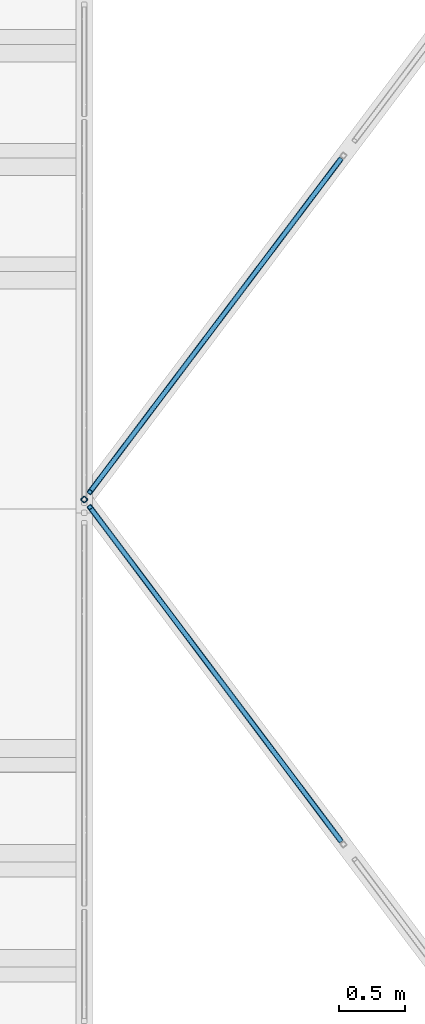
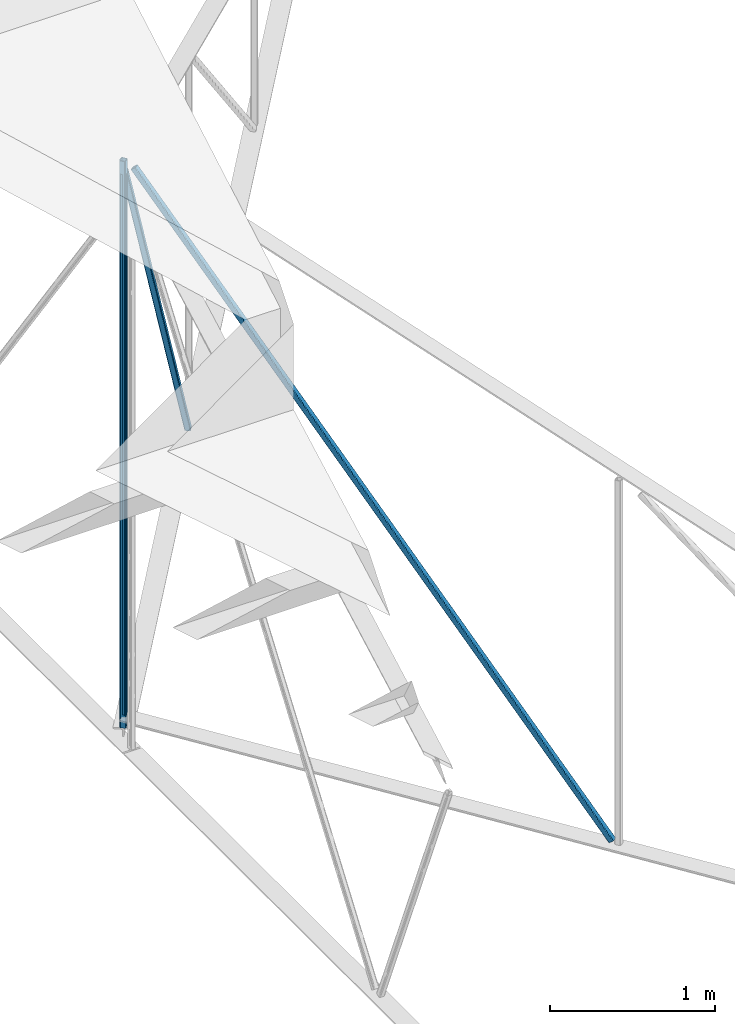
# One storey, part 10 of 15: 4 members, 2 elements without a shape of their own.
"""IFC4 building model written with IfcOpenShell, lengths in metres."""

from ifc_helpers import new_model, entity, si_unit, converted_unit, derived_unit, direction, frame, origin, place, context, subcontext, project, spatial, line, arc, indexed_curve, outline, extrude, source, transform, mapped, material, type_object, type_shapes, element, aggregate, save


model = new_model("IFC4")

# Units and contexts
model_context = context("Model", 3, precision=1e-05, world=origin(), true_north=direction((6.123031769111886e-17, 1.0)))
body_context = subcontext(model_context, "Body", "Model", "MODEL_VIEW")
ifc_project = project(units=[si_unit("LENGTHUNIT", "METRE"), si_unit("AREAUNIT", "SQUARE_METRE"), si_unit("VOLUMEUNIT", "CUBIC_METRE"), converted_unit("PLANEANGLEUNIT", "DEGREE", entity("IfcRatioMeasure", 0.017453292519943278), si_unit("PLANEANGLEUNIT", "RADIAN"), dimensions=[0, 0, 0, 0, 0, 0, 0]), si_unit("MASSUNIT", "GRAM", prefix="KILO"), derived_unit("MASSDENSITYUNIT", [(si_unit("MASSUNIT", "GRAM", prefix="KILO"), 1), (si_unit("LENGTHUNIT", "METRE"), -3)]), derived_unit("MOMENTOFINERTIAUNIT", [(si_unit("LENGTHUNIT", "METRE"), 4)]), si_unit("TIMEUNIT", "SECOND"), si_unit("FREQUENCYUNIT", "HERTZ"), si_unit("THERMODYNAMICTEMPERATUREUNIT", "DEGREE_CELSIUS"), derived_unit("THERMALTRANSMITTANCEUNIT", [(si_unit("MASSUNIT", "GRAM", prefix="KILO"), 1), (si_unit("THERMODYNAMICTEMPERATUREUNIT", "KELVIN"), -1), (si_unit("TIMEUNIT", "SECOND"), -3)]), derived_unit("VOLUMETRICFLOWRATEUNIT", [(si_unit("LENGTHUNIT", "METRE"), 3), (si_unit("TIMEUNIT", "SECOND"), -1)]), derived_unit("MASSFLOWRATEUNIT", [(si_unit("MASSUNIT", "GRAM", prefix="KILO"), 1), (si_unit("TIMEUNIT", "SECOND"), -1)]), derived_unit("ROTATIONALFREQUENCYUNIT", [(si_unit("TIMEUNIT", "SECOND"), -1)]), si_unit("ELECTRICCURRENTUNIT", "AMPERE"), si_unit("ELECTRICVOLTAGEUNIT", "VOLT"), si_unit("POWERUNIT", "WATT"), si_unit("FORCEUNIT", "NEWTON", prefix="KILO"), si_unit("ILLUMINANCEUNIT", "LUX"), si_unit("LUMINOUSFLUXUNIT", "LUMEN"), si_unit("LUMINOUSINTENSITYUNIT", "CANDELA"), derived_unit("USERDEFINED", [(si_unit("MASSUNIT", "GRAM", prefix="KILO"), -1), (si_unit("LENGTHUNIT", "METRE"), -2), (si_unit("TIMEUNIT", "SECOND"), 3), (si_unit("LUMINOUSFLUXUNIT", "LUMEN"), 1)]), derived_unit("SOUNDPOWERUNIT", [(si_unit("MASSUNIT", "GRAM", prefix="KILO"), 1), (si_unit("LENGTHUNIT", "METRE"), 2), (si_unit("TIMEUNIT", "SECOND"), -3)]), derived_unit("SOUNDPRESSUREUNIT", [(si_unit("MASSUNIT", "GRAM", prefix="KILO"), 1), (si_unit("LENGTHUNIT", "METRE"), -1), (si_unit("TIMEUNIT", "SECOND"), -2)]), derived_unit("LINEARVELOCITYUNIT", [(si_unit("LENGTHUNIT", "METRE"), 1), (si_unit("TIMEUNIT", "SECOND"), -1)]), si_unit("PRESSUREUNIT", "PASCAL"), derived_unit("USERDEFINED", [(si_unit("LENGTHUNIT", "METRE"), -2), (si_unit("MASSUNIT", "GRAM", prefix="KILO"), 1), (si_unit("TIMEUNIT", "SECOND"), -2)]), derived_unit("LINEARFORCEUNIT", [(si_unit("MASSUNIT", "GRAM", prefix="KILO"), 1), (si_unit("LENGTHUNIT", "METRE"), 1), (si_unit("TIMEUNIT", "SECOND"), -2), (si_unit("LENGTHUNIT", "METRE"), -1)]), derived_unit("PLANARFORCEUNIT", [(si_unit("MASSUNIT", "GRAM", prefix="KILO"), 1), (si_unit("LENGTHUNIT", "METRE"), 1), (si_unit("TIMEUNIT", "SECOND"), -2), (si_unit("LENGTHUNIT", "METRE"), -2)])], contexts=[model_context])

# Site, building, storey
site_placement = place(None, origin())
site = spatial("IfcSite", under=ifc_project, at=site_placement, Name="Superficie", CompositionType="ELEMENT")
building_placement = place(site_placement, origin())
building = spatial("IfcBuilding", under=site, at=building_placement, CompositionType="ELEMENT")
storey_placement = place(building_placement, frame((0.0, 0.0, 7.25)))
storey = spatial("IfcBuildingStorey", under=building, at=storey_placement, Name="Nivel 2", CompositionType="ELEMENT", Elevation=7.25)

# Assembly, members
assembly_1_placement = place(storey_placement, origin())
assembly_1 = element("IfcElementAssembly", 1, at=assembly_1_placement, inside=storey, Name="Cercha esquina:Cercha esquina", ObjectType="Cercha esquina:Cercha esquina", AssemblyPlace="NOTDEFINED", PredefinedType="TRUSS")
ifc_material = material(Name="Metal - Acero - 345 MPa", Category="Metal")
member_type_1 = type_object("IfcMemberType", Name="HSS-Sección estructural hueca:HSS41.3X41.3X4.8", PredefinedType="BRACE", material=ifc_material)
shared_shape_1 = source(origin(), body_context, "Body", "SweptSolid", [
    extrude(outline(indexed_curve([(-0.020650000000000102, -0.011809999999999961), (-0.01806082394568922, -0.018060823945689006), (-0.011810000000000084, -0.020649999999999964), (0.011810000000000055, -0.020649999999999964), (0.01806082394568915, -0.01806082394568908), (0.020650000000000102, -0.011809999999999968), (0.020650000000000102, 0.011809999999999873), (0.018060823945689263, 0.018060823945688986), (0.01181000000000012, 0.020649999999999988), (-0.011810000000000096, 0.020649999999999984), (-0.018060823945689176, 0.018060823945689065), (-0.020650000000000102, 0.011810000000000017)], segments=[arc(1, 2, 3), line(3, 4), arc(4, 5, 6), line(6, 7), arc(7, 8, 9), line(9, 10), arc(10, 11, 12), line(12, 1)], self_intersect=False), holes=[indexed_curve([(0.01180999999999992, -0.016230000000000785), (-0.011809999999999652, -0.016230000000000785), (-0.014935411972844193, -0.014935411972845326), (-0.016229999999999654, -0.011810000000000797), (-0.016229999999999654, 0.011809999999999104), (-0.014935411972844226, 0.01493541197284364), (-0.011809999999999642, 0.016229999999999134), (0.011809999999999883, 0.016229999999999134), (0.014935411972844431, 0.014935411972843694), (0.01622999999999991, 0.011809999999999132), (0.01622999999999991, -0.011810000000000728), (0.014935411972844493, -0.014935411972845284)], segments=[line(1, 2), arc(2, 3, 4), line(4, 5), arc(5, 6, 7), line(7, 8), arc(8, 9, 10), line(10, 11), arc(11, 12, 1)], self_intersect=False)]), frame((-2.0560000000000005, 0.0, 0.0), z_axis=(1.0, 0.0, 0.0), x_axis=(0.0, -1.0, 0.0)), (0.0, 0.0, 1.0), 4.1000000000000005),
])
type_shapes(member_type_1, [shared_shape_1])
member_1_placement = place(assembly_1_placement, frame((14.597348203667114, -1.8582267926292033, 2.406031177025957), z_axis=(-0.6008480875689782, 0.7993632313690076, 0.0), x_axis=(0.0, 0.0, 1.0)))
member_1 = element("IfcMember", 2, at=member_1_placement, type_object=member_type_1, material=ifc_material, Name="HSS-Sección estructural hueca:HSS41.3X41.3X4.8", ObjectType="HSS-Sección estructural hueca:HSS41.3X41.3X4.8", PredefinedType="BRACE", context=body_context, shape_type="MappedRepresentation", body=[
    mapped(shared_shape_1, transform((0.0, 0.0, 0.0), scale=1.0)),
])
member_type_2 = type_object("IfcMemberType", Name="HSS-Sección estructural hueca:HSS41.3X41.3X4.8", PredefinedType="BRACE", material=ifc_material)
shared_shape_2 = source(origin(), body_context, "Body", "SweptSolid", [
    extrude(outline(indexed_curve([(-0.020650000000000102, -0.011809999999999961), (-0.01806082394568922, -0.018060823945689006), (-0.011810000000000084, -0.020649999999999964), (0.011810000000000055, -0.020649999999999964), (0.01806082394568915, -0.01806082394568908), (0.020650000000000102, -0.011809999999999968), (0.020650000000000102, 0.011809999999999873), (0.018060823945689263, 0.018060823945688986), (0.01181000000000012, 0.020649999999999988), (-0.011810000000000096, 0.020649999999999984), (-0.018060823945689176, 0.018060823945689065), (-0.020650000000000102, 0.011810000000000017)], segments=[arc(1, 2, 3), line(3, 4), arc(4, 5, 6), line(6, 7), arc(7, 8, 9), line(9, 10), arc(10, 11, 12), line(12, 1)], self_intersect=False), holes=[indexed_curve([(0.01180999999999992, -0.016230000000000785), (-0.011809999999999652, -0.016230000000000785), (-0.014935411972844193, -0.014935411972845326), (-0.016229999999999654, -0.011810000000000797), (-0.016229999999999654, 0.011809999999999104), (-0.014935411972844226, 0.01493541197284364), (-0.011809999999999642, 0.016229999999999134), (0.011809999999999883, 0.016229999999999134), (0.014935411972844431, 0.014935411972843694), (0.01622999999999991, 0.011809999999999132), (0.01622999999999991, -0.011810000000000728), (0.014935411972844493, -0.014935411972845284)], segments=[line(1, 2), arc(2, 3, 4), line(4, 5), arc(5, 6, 7), line(7, 8), arc(8, 9, 10), line(10, 11), arc(11, 12, 1)], self_intersect=False)]), frame((-2.618500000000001, 0.0, 0.0), z_axis=(1.0, 0.0, 0.0), x_axis=(0.0, -1.0, 0.0)), (0.0, 0.0, 1.0), 5.189000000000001),
])
type_shapes(member_type_2, [shared_shape_2])
member_2_placement = place(assembly_1_placement, frame((15.57892333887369, -3.1641060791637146, 2.371544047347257), z_axis=(-0.4772115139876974, 0.6348781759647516, -0.6076173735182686), x_axis=(-0.36508573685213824, 0.4857069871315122, 0.7942298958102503)))
member_2 = element("IfcMember", 3, at=member_2_placement, type_object=member_type_2, material=ifc_material, Name="HSS-Sección estructural hueca:HSS41.3X41.3X4.8", ObjectType="HSS-Sección estructural hueca:HSS41.3X41.3X4.8", PredefinedType="BRACE", context=body_context, shape_type="MappedRepresentation", body=[
    mapped(shared_shape_2, transform((0.0, 0.0, 0.0), scale=1.0)),
])
aggregate(assembly_1, [member_1, member_2])

assembly_2_placement = place(storey_placement, origin())
assembly_2 = element("IfcElementAssembly", 4, at=assembly_2_placement, inside=storey, Name="Cercha esquina:Cercha esquina", ObjectType="Cercha esquina:Cercha esquina", AssemblyPlace="NOTDEFINED", PredefinedType="TRUSS")
member_type_3 = type_object("IfcMemberType", Name="HSS-Sección estructural hueca:HSS41.3X41.3X4.8", PredefinedType="BRACE", material=ifc_material)
shared_shape_3 = source(origin(), body_context, "Body", "SweptSolid", [
    extrude(outline(indexed_curve([(-0.011809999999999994, -0.020650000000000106), (0.011809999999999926, -0.020650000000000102), (0.01806082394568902, -0.01806082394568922), (0.020649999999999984, -0.011810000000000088), (0.020649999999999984, 0.011810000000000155), (0.018060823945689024, 0.018060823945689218), (0.011809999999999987, 0.0206500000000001), (-0.011809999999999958, 0.0206500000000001), (-0.01806082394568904, 0.018060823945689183), (-0.020649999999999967, 0.011810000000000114), (-0.020649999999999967, -0.01181000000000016), (-0.018060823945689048, -0.018060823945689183)], segments=[line(1, 2), arc(2, 3, 4), line(4, 5), arc(5, 6, 7), line(7, 8), arc(8, 9, 10), line(10, 11), arc(11, 12, 1)], self_intersect=False), holes=[indexed_curve([(-0.01623000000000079, 0.01180999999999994), (-0.014935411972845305, 0.014935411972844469), (-0.011810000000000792, 0.016229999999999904), (0.01180999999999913, 0.016229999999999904), (0.01493541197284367, 0.014935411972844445), (0.01622999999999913, 0.01180999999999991), (0.01622999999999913, -0.011809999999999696), (0.014935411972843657, -0.014935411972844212), (0.01180999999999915, -0.01622999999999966), (-0.011810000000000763, -0.01622999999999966), (-0.014935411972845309, -0.01493541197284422), (-0.01623000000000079, -0.011809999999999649)], segments=[arc(1, 2, 3), line(3, 4), arc(4, 5, 6), line(6, 7), arc(7, 8, 9), line(9, 10), arc(10, 11, 12), line(12, 1)], self_intersect=False)]), frame((-2.0560000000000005, 0.0, 0.0), z_axis=(1.0, 0.0, 0.0), x_axis=(0.0, 0.0, -1.0)), (0.0, 0.0, 1.0), 4.1000000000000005),
])
type_shapes(member_type_3, [shared_shape_3])
member_3_placement = place(assembly_2_placement, frame((14.597348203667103, -1.8582267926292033, 2.3078143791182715), z_axis=(-0.6018150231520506, -0.798635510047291, 0.0), x_axis=(0.0, 0.0, 1.0)))
member_3 = element("IfcMember", 5, at=member_3_placement, type_object=member_type_3, material=ifc_material, Name="HSS-Sección estructural hueca:HSS41.3X41.3X4.8", ObjectType="HSS-Sección estructural hueca:HSS41.3X41.3X4.8", PredefinedType="BRACE", context=body_context, shape_type="MappedRepresentation", body=[
    mapped(shared_shape_3, transform((0.0, 0.0, 0.0), scale=1.0)),
])
member_type_4 = type_object("IfcMemberType", Name="HSS-Sección estructural hueca:HSS41.3X41.3X4.8", PredefinedType="BRACE", material=ifc_material)
shared_shape_4 = source(origin(), body_context, "Body", "SweptSolid", [
    extrude(outline(indexed_curve([(-0.011809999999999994, -0.020650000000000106), (0.011809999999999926, -0.020650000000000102), (0.01806082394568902, -0.01806082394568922), (0.020649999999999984, -0.011810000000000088), (0.020649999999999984, 0.011810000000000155), (0.018060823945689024, 0.018060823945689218), (0.011809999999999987, 0.0206500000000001), (-0.011809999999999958, 0.0206500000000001), (-0.01806082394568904, 0.018060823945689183), (-0.020649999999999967, 0.011810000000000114), (-0.020649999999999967, -0.01181000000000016), (-0.018060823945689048, -0.018060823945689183)], segments=[line(1, 2), arc(2, 3, 4), line(4, 5), arc(5, 6, 7), line(7, 8), arc(8, 9, 10), line(10, 11), arc(11, 12, 1)], self_intersect=False), holes=[indexed_curve([(-0.01623000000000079, 0.01180999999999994), (-0.014935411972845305, 0.014935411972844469), (-0.011810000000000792, 0.016229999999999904), (0.01180999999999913, 0.016229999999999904), (0.01493541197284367, 0.014935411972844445), (0.01622999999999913, 0.01180999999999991), (0.01622999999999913, -0.011809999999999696), (0.014935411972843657, -0.014935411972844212), (0.01180999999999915, -0.01622999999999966), (-0.011810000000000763, -0.01622999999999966), (-0.014935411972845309, -0.01493541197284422), (-0.01623000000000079, -0.011809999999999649)], segments=[arc(1, 2, 3), line(3, 4), arc(4, 5, 6), line(6, 7), arc(7, 8, 9), line(9, 10), arc(10, 11, 12), line(12, 1)], self_intersect=False)]), frame((-2.604000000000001, 0.0, 0.0), z_axis=(1.0, 0.0, 0.0), x_axis=(0.0, 0.0, -1.0)), (0.0, 0.0, 1.0), 5.1610000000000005),
])
type_shapes(member_type_4, [shared_shape_4])
member_4_placement = place(assembly_2_placement, frame((15.578923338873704, -0.5556325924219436, 2.289696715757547), z_axis=(-0.47690233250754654, -0.6328707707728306, -0.6099497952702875), x_axis=(-0.3670769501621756, -0.487127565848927, 0.7924400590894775)))
member_4 = element("IfcMember", 6, at=member_4_placement, type_object=member_type_4, material=ifc_material, Name="HSS-Sección estructural hueca:HSS41.3X41.3X4.8", ObjectType="HSS-Sección estructural hueca:HSS41.3X41.3X4.8", PredefinedType="BRACE", context=body_context, shape_type="MappedRepresentation", body=[
    mapped(shared_shape_4, transform((0.0, 0.0, 0.0), scale=1.0)),
])
aggregate(assembly_2, [member_3, member_4])

save(model, "model.ifc")
